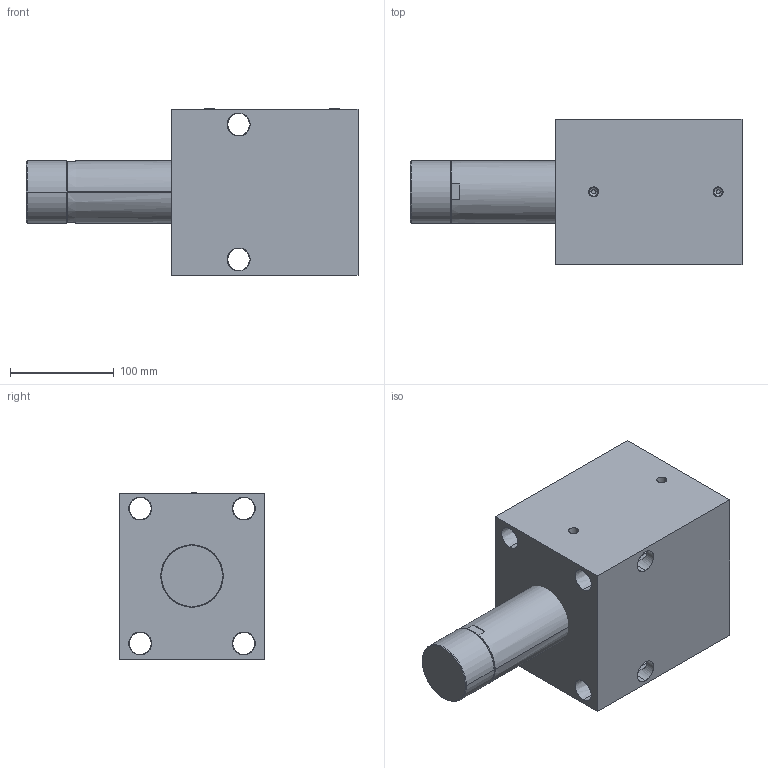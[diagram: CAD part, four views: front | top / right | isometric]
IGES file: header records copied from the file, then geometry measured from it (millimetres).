
Start section: SolidWorks IGES file using analytic representation for surfaces
Global section: file name: C:\Documents and Settings\rajib\Desktop\Rajib\BLOCK CYLINDER HYDRAULIC\0901-0906\IGES 0901-0908\0907.IGS; native system: SolidWorks 2007; preprocessor: SolidWorks 2007; author: rajib; date: 110121.165041; units: millimetre
Bounding box: 320 x 140 x 160 mm (x, y, z)
Surface area: 245993.6 mm2 (no closed solid volume)
Topology: 0 solids, 0 shells, 76 faces, 1968 edges, 1968 vertices
Faces by surface type: revolution 54, bspline 22
